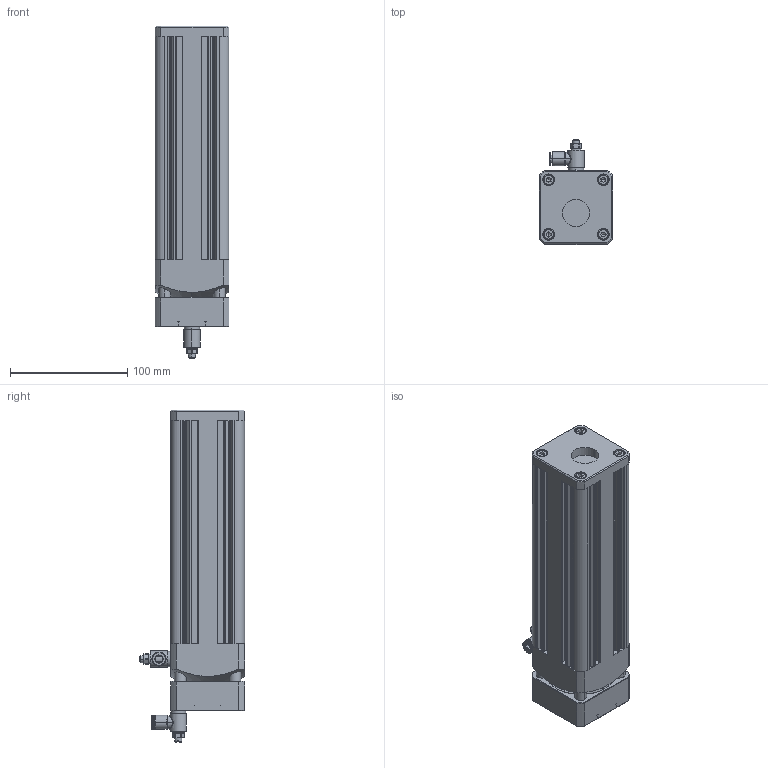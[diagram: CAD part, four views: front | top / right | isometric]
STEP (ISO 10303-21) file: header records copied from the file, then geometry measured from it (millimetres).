
FILE_DESCRIPTION (( 'STEP AP203' ), '1' );
FILE_NAME ('VNOK-D-AL-E-0050-0190.STEP', '2019-02-06T13:00:09', ( '' ), ( '' ), 'SwSTEP 2.0', 'SolidWorks 2018', '' );
FILE_SCHEMA (( 'CONFIG_CONTROL_DESIGN' ));
Length unit declared in the file: millimetre
Products named in the file (1): VNOK-D-AL-E-0050-0190
Bounding box: 63 x 89.6 x 282.65 mm (x, y, z)
Volume: 933180.8 mm3; surface area: 102679.2 mm2
Topology: 1 solids, 19 shells, 907 faces, 2399 edges, 1558 vertices
Faces by surface type: plane 456, cylinder 290, cone 90, bspline 71
Entity records: 39178 total; most frequent: CARTESIAN_POINT 17668, ORIENTED_EDGE 4734, DIRECTION 4062, EDGE_CURVE 2367, VERTEX_POINT 1558, AXIS2_PLACEMENT_3D 1471, VECTOR 1120, LINE 1120
